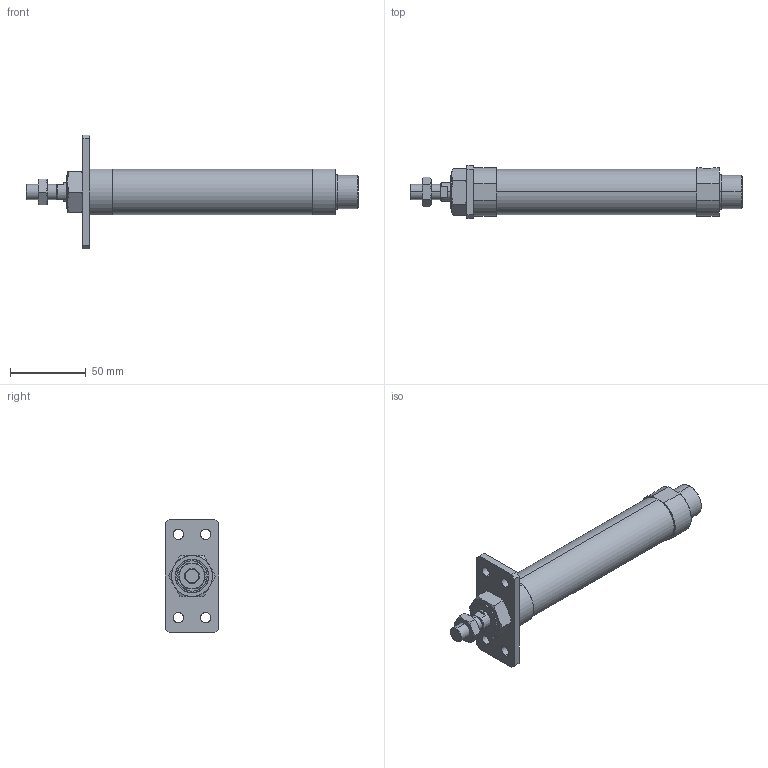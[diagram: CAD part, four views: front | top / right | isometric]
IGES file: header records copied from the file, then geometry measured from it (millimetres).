
Start section: SolidWorks IGES file using analytic representation for surfaces
Global section: file name: C:\Users\Toshiba\Desktop\J#1-25-50-A.IGS; native system: SolidWorks 2014; preprocessor: SolidWorks 2014; author: Toshiba; date: 160308.144824; units: millimetre
Bounding box: 219 x 35 x 75 mm (x, y, z)
Surface area: 29532.5 mm2 (no closed solid volume)
Topology: 0 solids, 0 shells, 113 faces, 2070 edges, 2068 vertices
Faces by surface type: bspline 71, revolution 42
